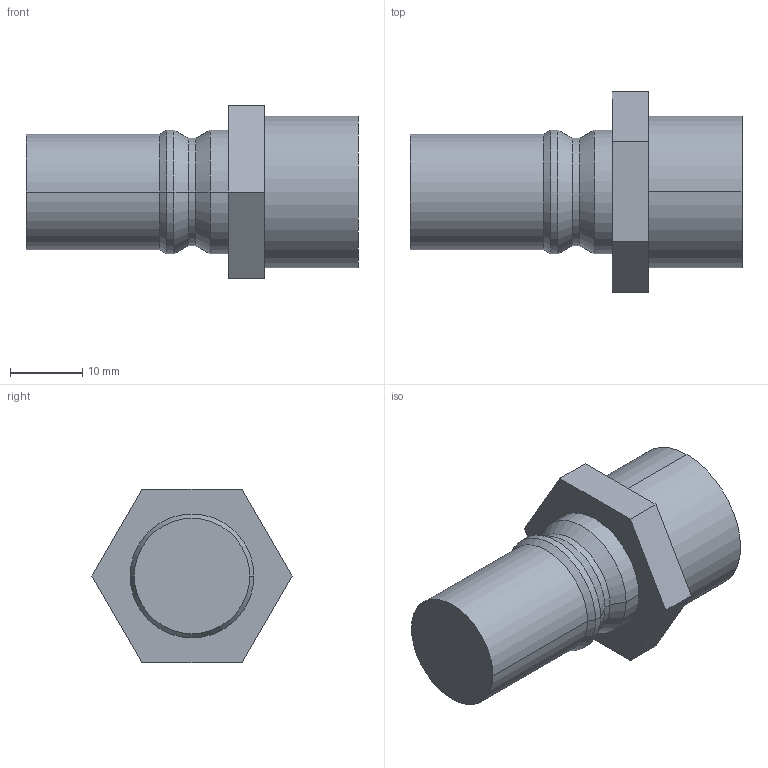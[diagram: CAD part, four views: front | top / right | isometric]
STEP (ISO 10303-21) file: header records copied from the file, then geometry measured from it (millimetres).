
FILE_DESCRIPTION (( 'STEP AP214' ), '1' );
FILE_NAME ('BR601.12 ER 21.STEP', '2020-12-02T13:42:13', ( '' ), ( '' ), 'SwSTEP 2.0', 'SolidWorks 2018', '' );
FILE_SCHEMA (( 'AUTOMOTIVE_DESIGN' ));
Length unit declared in the file: millimetre
Products named in the file (1): BR601.12 ER 21
Bounding box: 46 x 27.71 x 24 mm (x, y, z)
Volume: 12720.1 mm3; surface area: 3698.4 mm2
Topology: 1 solids, 1 shells, 26 faces, 54 edges, 32 vertices
Faces by surface type: cylinder 10, plane 10, cone 6
Entity records: 716 total; most frequent: DIRECTION 128, CARTESIAN_POINT 113, ORIENTED_EDGE 108, EDGE_CURVE 54, AXIS2_PLACEMENT_3D 47, VECTOR 34, LINE 34, VERTEX_POINT 32
